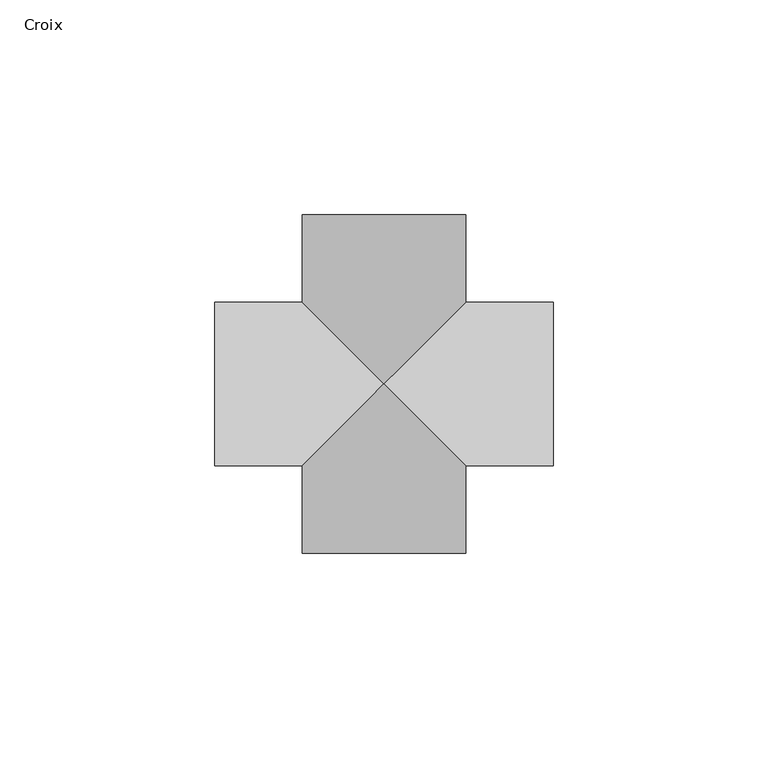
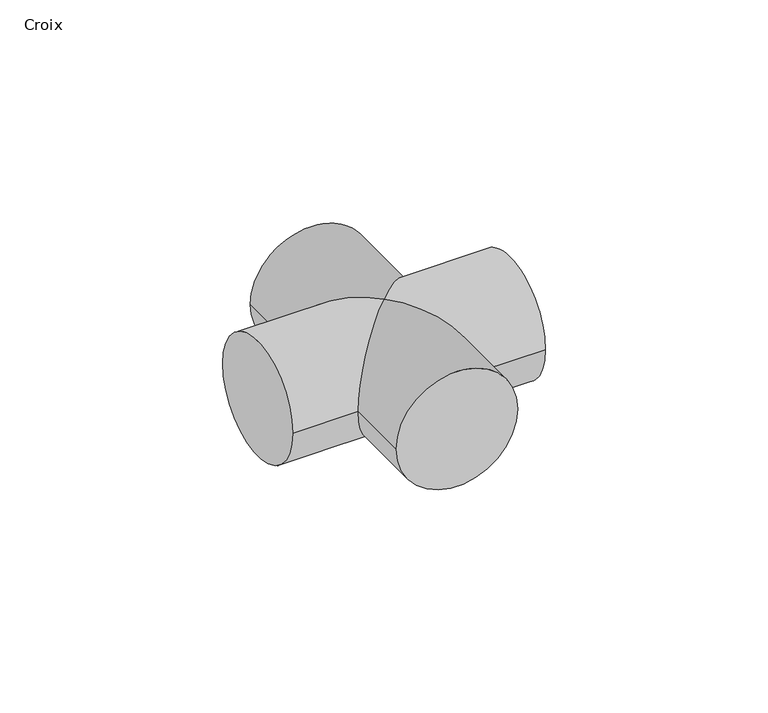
"""IFC4 building model written with IfcOpenShell, lengths in millimetres: pipe fitting geometry, 01051068 : Croix."""

from ifc_helpers import new_model, si_unit, frame, origin, place, context, project, spatial, circle_curve, ellipse_curve, source, transform, mapped, element, save
from ifc_brep_helpers import plane_surface, cylinder_surface, advanced_brep


def croix_4a82c55d(model_context):
    return source(origin(), model_context, "Body", "AdvancedBrep", [
        advanced_brep(
        [(-19.0, 39.5, 0.0), (19.0, 39.5, 0.0), (-19.0, -39.5, 0.0), (19.0, -39.5, 0.0), (-19.0, 19.0, 0.0), (0.0, 0.0, 19.0), (19.0, 19.0, 0.0), (19.0, -19.0, 0.0), (-19.0, -19.0, 0.0), (0.0, 0.0, -19.0), (39.5, 19.0, 0.0), (39.5, -19.0, 0.0), (-39.5, 19.0, 0.0), (-39.5, -19.0, 0.0)],
        [
            (0, 1, circle_curve(frame((0.0, 39.5, 0.0), z_axis=(0.0, 1.0, 0.0), x_axis=(1.0, 0.0, 0.0)), 19.0)),
            (1, 0, circle_curve(frame((0.0, 39.5, 0.0), z_axis=(0.0, 1.0, 0.0), x_axis=(1.0, 0.0, 0.0)), 19.0)),
            (2, 3, circle_curve(frame((0.0, -39.5, 0.0), z_axis=(0.0, -1.0, 0.0), x_axis=(1.0, 0.0, 0.0)), 19.0)),
            (3, 2, circle_curve(frame((0.0, -39.5, 0.0), z_axis=(0.0, -1.0, 0.0), x_axis=(1.0, 0.0, 0.0)), 19.0)),
            (0, 4),
            (4, 5, ellipse_curve(frame((0.0, 0.0, 0.0), z_axis=(0.7071067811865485, 0.7071067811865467, 0.0), x_axis=(-0.7071067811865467, 0.7071067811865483, 0.0)), 26.8700577, 19.0)),
            (5, 6, ellipse_curve(frame((0.0, 0.0, 0.0), z_axis=(-0.7071067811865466, 0.7071067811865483, 0.0), x_axis=(0.7071067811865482, 0.7071067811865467, 0.0)), 26.8700577, 19.0)),
            (6, 1),
            (3, 7),
            (7, 5, ellipse_curve(frame((0.0, 0.0, 0.0), z_axis=(-0.7071067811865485, -0.7071067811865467, 0.0), x_axis=(-0.7071067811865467, 0.7071067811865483, 0.0)), 26.8700577, 19.0)),
            (5, 8, ellipse_curve(frame((0.0, 0.0, 0.0), z_axis=(0.7071067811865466, -0.7071067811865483, 0.0), x_axis=(0.7071067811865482, 0.7071067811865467, 0.0)), 26.8700577, 19.0)),
            (8, 2),
            (6, 9, ellipse_curve(frame((0.0, 0.0, 0.0), z_axis=(-0.7071067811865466, 0.7071067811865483, 0.0), x_axis=(0.7071067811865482, 0.7071067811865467, 0.0)), 26.8700577, 19.0)),
            (9, 4, ellipse_curve(frame((0.0, 0.0, 0.0), z_axis=(0.7071067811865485, 0.7071067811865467, 0.0), x_axis=(-0.7071067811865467, 0.7071067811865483, 0.0)), 26.8700577, 19.0)),
            (8, 9, ellipse_curve(frame((0.0, 0.0, 0.0), z_axis=(0.7071067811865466, -0.7071067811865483, 0.0), x_axis=(0.7071067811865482, 0.7071067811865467, 0.0)), 26.8700577, 19.0)),
            (9, 7, ellipse_curve(frame((0.0, 0.0, 0.0), z_axis=(-0.7071067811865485, -0.7071067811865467, 0.0), x_axis=(-0.7071067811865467, 0.7071067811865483, 0.0)), 26.8700577, 19.0)),
            (10, 11, circle_curve(frame((39.5, 0.0, 0.0), z_axis=(1.0, 0.0, 0.0), x_axis=(0.0, -1.0, 0.0)), 19.0)),
            (11, 10, circle_curve(frame((39.5, 0.0, 0.0), z_axis=(1.0, 0.0, 0.0), x_axis=(0.0, -1.0, 0.0)), 19.0)),
            (12, 13, circle_curve(frame((-39.5, 0.0, 0.0), z_axis=(-1.0, 0.0, 0.0), x_axis=(0.0, -1.0, 0.0)), 19.0)),
            (13, 12, circle_curve(frame((-39.5, 0.0, 0.0), z_axis=(-1.0, 0.0, 0.0), x_axis=(0.0, -1.0, 0.0)), 19.0)),
            (10, 6),
            (7, 11),
            (13, 8),
            (4, 12),
        ],
        [
            plane_surface(frame((0.0, 39.5, 0.0), z_axis=(0.0, 1.0, 0.0), x_axis=(0.0, 0.0, 1.0))),
            plane_surface(frame((0.0, -39.5, 0.0), z_axis=(0.0, -1.0, 0.0), x_axis=(0.0, 0.0, 1.0))),
            cylinder_surface(frame((0.0, 39.5, 0.0), z_axis=(0.0, 1.0, 0.0), x_axis=(1.0, 0.0, 0.0)), 19.0),
            plane_surface(frame((39.5, 0.0, 0.0), z_axis=(1.0, 0.0, 0.0), x_axis=(0.0, 0.0, 1.0))),
            plane_surface(frame((-39.5, 0.0, 0.0), z_axis=(-1.0, 0.0, 0.0), x_axis=(0.0, 0.0, 1.0))),
            cylinder_surface(frame((39.5, 0.0, 0.0), z_axis=(1.0, 0.0, 0.0), x_axis=(0.0, -1.0, 0.0)), 19.0),
        ],
        [
            (0, [[1, 2]]),
            (1, [[3, 4]]),
            (2, [[-1, 5, 6, 7, 8]]),
            (2, [[-4, 9, 10, 11, 12]]),
            (2, [[-2, -8, 13, 14, -5]]),
            (2, [[-3, -12, 15, 16, -9]]),
            (3, [[17, 18]]),
            (4, [[19, 20]]),
            (5, [[-17, 21, -7, -10, 22]]),
            (5, [[-20, 23, -11, -6, 24]]),
            (5, [[-18, -22, -16, -13, -21]]),
            (5, [[-19, -24, -14, -15, -23]]),
        ],
    ),
    ])


if __name__ == "__main__":
    model = new_model("IFC4")
    model_context = context("Model", 3, world=origin())
    ifc_project = project(units=[si_unit("LENGTHUNIT", "METRE", prefix="MILLI")], contexts=[model_context])
    site = spatial("IfcSite", under=ifc_project)
    building = spatial("IfcBuilding", under=site)
    placement = place(None, origin())
    croix_shape = croix_4a82c55d(model_context)
    element("IfcPipeFitting", 1, ObjectType="01051068 : Croix", at=placement, inside=building, context=model_context, shape_type="MappedRepresentation", body=[
        mapped(croix_shape, transform((0.0, 0.0, 0.0), x_axis=(1.0, 0.0, 0.0), y_axis=(0.0, 1.0, 0.0), z_axis=(0.0, 0.0, 1.0))),
    ])
    save(model, "model.ifc")
